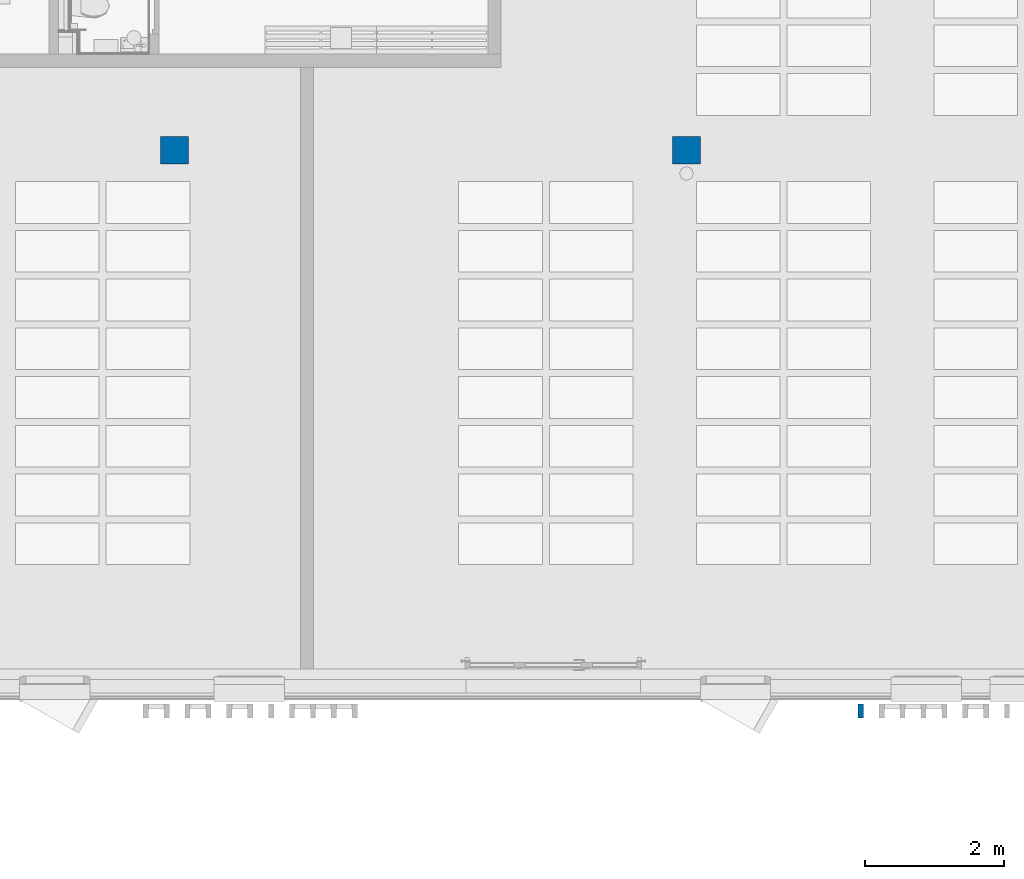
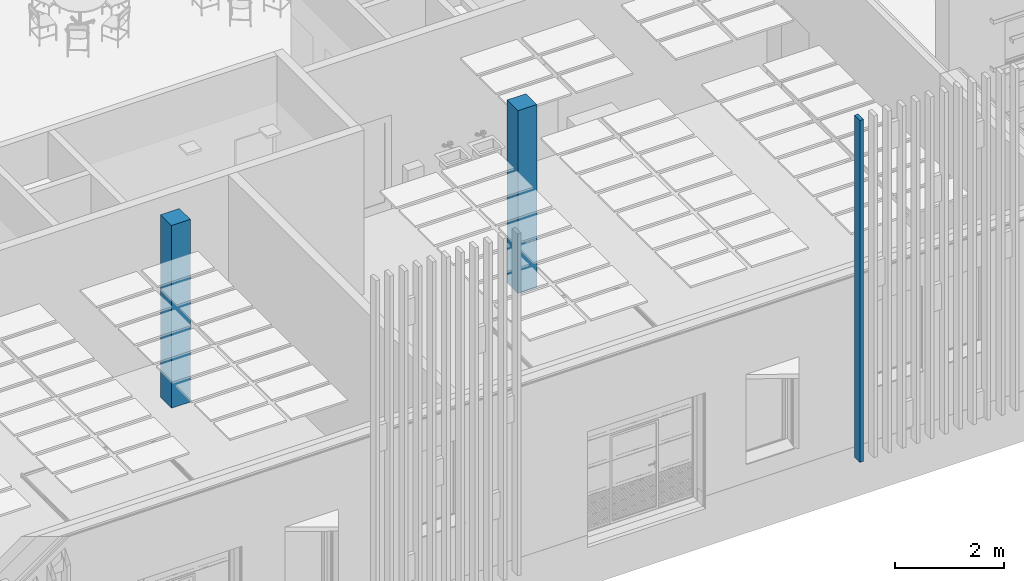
# One storey, part 13 of 301: 3 columns.
"""IFC2X3 building model written with IfcOpenShell, lengths in millimetres."""

from ifc_helpers import new_model, entity, si_unit, converted_unit, derived_unit, money_unit, direction, frame, origin_with_axes, place, context, subcontext, project, spatial, faceted_brep, material, type_object, element, save


model = new_model("IFC2X3")

# Units and contexts
model_context = context("Model", 3, precision=0.01, world=origin_with_axes(), true_north=direction((0.0, 1.0)))
body_context = subcontext(model_context, "Body", "Model", "MODEL_VIEW")
ifc_project = project(units=[si_unit("LENGTHUNIT", "METRE", prefix="MILLI"), si_unit("AREAUNIT", "SQUARE_METRE"), si_unit("VOLUMEUNIT", "CUBIC_METRE"), converted_unit("PLANEANGLEUNIT", "DEGREE", entity("IfcPlaneAngleMeasure", 0.0174532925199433), si_unit("PLANEANGLEUNIT", "RADIAN"), dimensions=[0, 0, 0, 0, 0, 0, 0]), money_unit("EUR"), converted_unit("TIMEUNIT", "Year", entity("IfcTimeMeasure", 31557600.0), si_unit("TIMEUNIT", "SECOND"), dimensions=[0, 0, 1, 0, 0, 0, 0]), si_unit("MASSUNIT", "GRAM", prefix="KILO"), si_unit("THERMODYNAMICTEMPERATUREUNIT", "DEGREE_CELSIUS"), si_unit("LUMINOUSINTENSITYUNIT", "LUMEN"), si_unit("ENERGYUNIT", "JOULE", prefix="MEGA"), derived_unit("THERMALCONDUCTANCEUNIT", [(si_unit("POWERUNIT", "WATT"), 1), (si_unit("LENGTHUNIT", "METRE"), -1), (si_unit("THERMODYNAMICTEMPERATUREUNIT", "KELVIN"), -1)]), derived_unit("SPECIFICHEATCAPACITYUNIT", [(si_unit("ENERGYUNIT", "JOULE"), 1), (si_unit("MASSUNIT", "GRAM", prefix="KILO"), -1), (si_unit("THERMODYNAMICTEMPERATUREUNIT", "KELVIN"), -1)]), derived_unit("MASSDENSITYUNIT", [(si_unit("MASSUNIT", "GRAM", prefix="KILO"), 1), (si_unit("VOLUMEUNIT", "CUBIC_METRE"), -1)])], contexts=[model_context])

# Site, building, storey
site_placement = place(None, frame((0.0, 0.0, 8650.0), z_axis=(0.0, 0.0, 1.0), x_axis=(1.0, 0.0, 0.0)))
site = spatial("IfcSite", under=ifc_project, at=site_placement, Name="43301:001:0844", CompositionType="ELEMENT")
building_placement = place(site_placement, origin_with_axes())
building = spatial("IfcBuilding", under=site, at=building_placement, Name="Kuressaare Ametikooli tuulikute mehaanikute õppekorpus", CompositionType="ELEMENT")
storey_placement = place(building_placement, origin_with_axes())
storey = spatial("IfcBuildingStorey", under=building, at=storey_placement, Name="1.korrus", CompositionType="ELEMENT", Elevation=0.0)

# Columns
ifc_material_1 = material(Name="GENEERILINE - KONSTRUKTRIOON")
column_type_1 = type_object("IfcColumnType", Name="GENEERILINE - KONSTRUKTRIOON 200 x 75", PredefinedType="NOTDEFINED")
column_placement = place(storey_placement, frame((128421.2559016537, 8523.838490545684, 100.0000000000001), z_axis=(0.0, 0.0, 1.0), x_axis=(0.0, -1.0, 0.0)))
element("IfcColumn", 1, at=column_placement, inside=storey, type_object=column_type_1, material=ifc_material_1, Name="Varjestus_viltu", context=body_context, shape_type="Brep", body=[
    faceted_brep([(-99.99999999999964, -37.49999999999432, 7664.185442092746), (-99.99999999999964, -37.49999999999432, 0.0), (99.99999999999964, -37.49999999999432, 0.0), (99.99999999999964, -37.49999999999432, 7664.185442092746), (-99.99999999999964, 37.49999999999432, 7670.74709185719), (-99.99999999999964, 37.49999999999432, 0.0), (99.99999999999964, 37.49999999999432, 0.0), (99.99999999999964, 37.49999999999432, 7670.74709185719)], [[[0, 1, 2, 3]], [[4, 5, 1, 0]], [[2, 1, 5, 6]], [[3, 2, 6, 7]], [[4, 0, 3, 7]], [[7, 6, 5, 4]]]),
])
ifc_material_2 = material(Name="Puit - Liimpuit")
column_type_2 = type_object("IfcColumnType", Name="Puit - Liimpuit 400 x 400", PredefinedType="NOTDEFINED")
for number, where, z_axis, x_axis in (
    (2, (118567.9466433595, 16574.04687498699, 0.0), (0.0, 0.0, 1.0), (1.0, 0.0, 0.0)),
    (3, (125918.0683571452, 16574.046874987, 0.0), (0.0, 0.0, 1.0), (1.0, 0.0, 0.0)),
):
    element("IfcColumn", number, at=place(storey_placement, frame(where, z_axis=z_axis, x_axis=x_axis)), inside=storey, type_object=column_type_2, material=ifc_material_2, context=body_context, shape_type="Brep", body=[
        faceted_brep([(-200.0000000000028, -199.9999999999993, 4099.999999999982), (-200.0000000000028, -199.9999999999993, 0.0), (200.0000000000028, -199.9999999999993, 0.0), (200.0000000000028, -199.9999999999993, 4099.999999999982), (-200.0000000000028, 199.9999999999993, 4099.999999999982), (-200.0000000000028, 199.9999999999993, 0.0), (200.0000000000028, 199.9999999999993, 0.0), (200.0000000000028, 199.9999999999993, 4099.999999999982)], [[[0, 1, 2, 3]], [[4, 5, 1, 0]], [[2, 1, 5, 6]], [[3, 2, 6, 7]], [[4, 0, 3, 7]], [[7, 6, 5, 4]]]),
    ])

save(model, "model.ifc")
